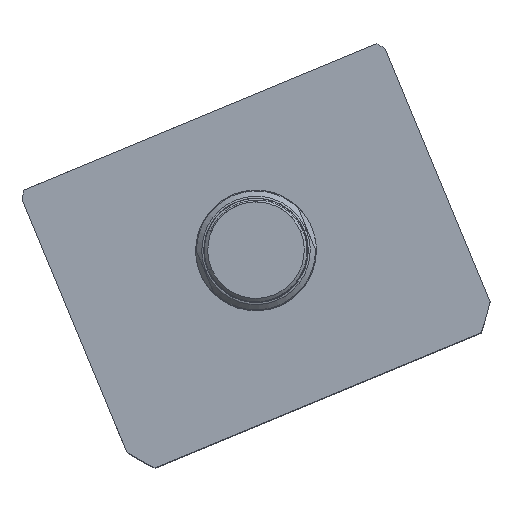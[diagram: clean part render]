
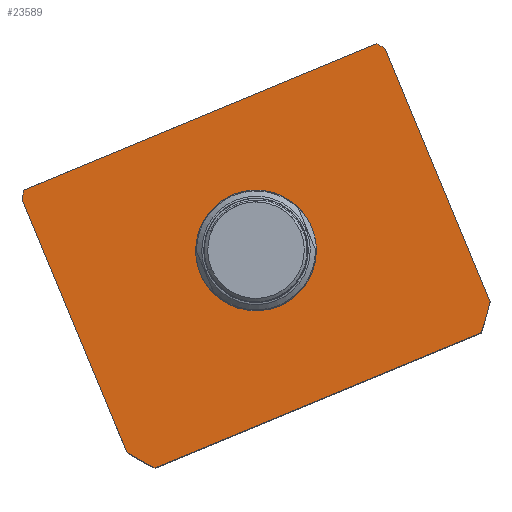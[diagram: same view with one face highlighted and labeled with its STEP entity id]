
A CAD part, top view. The second image highlights one B-rep face of the part: STEP entity #23589.
In plain terms, the highlighted planar face has unit normal (0, 0, 1) as drawn and (0, 0, -1) by its records, which use the part's own axes.
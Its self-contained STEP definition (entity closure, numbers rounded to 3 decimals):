
#1300 = CARTESIAN_POINT ( 'NONE',  ( -17.5, -59.497, 0. ) ) ;
#1351 = ORIENTED_EDGE ( 'NONE', *, *, #22520, .F. ) ;
#1397 = DIRECTION ( 'NONE',  ( 0., 0., 1. ) ) ;
#1482 = PLANE ( 'NONE',  #10368 ) ;
#1501 = VERTEX_POINT ( 'NONE', #2992 ) ;
#2496 = FACE_OUTER_BOUND ( 'NONE', #15459, .T. ) ;
#2590 = CARTESIAN_POINT ( 'NONE',  ( 0., -59.497, 0. ) ) ;
#2625 = ORIENTED_EDGE ( 'NONE', *, *, #4183, .F. ) ;
#2790 = CARTESIAN_POINT ( 'NONE',  ( 57., -19.732, 0. ) ) ;
#2808 = CARTESIAN_POINT ( 'NONE',  ( 0., -59.497, 0. ) ) ;
#2992 = CARTESIAN_POINT ( 'NONE',  ( 51.198, -106.497, 0. ) ) ;
#3320 = EDGE_CURVE ( 'NONE', #8840, #21712, #5648, .T. ) ;
#3623 = VECTOR ( 'NONE', #25937, 1000. ) ;
#3627 = DIRECTION ( 'NONE',  ( 1., 0., 0. ) ) ;
#3915 = CIRCLE ( 'NONE', #24934, 69.5 ) ;
#4028 = VERTEX_POINT ( 'NONE', #1300 ) ;
#4060 = CARTESIAN_POINT ( 'NONE',  ( -57., -17.497, 0. ) ) ;
#4183 = EDGE_CURVE ( 'NONE', #5746, #1501, #5959, .T. ) ;
#4720 = DIRECTION ( 'NONE',  ( 1., 0., 0. ) ) ;
#4923 = DIRECTION ( 'NONE',  ( 1., 0., 0. ) ) ;
#5002 = ORIENTED_EDGE ( 'NONE', *, *, #24628, .F. ) ;
#5044 = CIRCLE ( 'NONE', #25755, 69.5 ) ;
#5140 = ORIENTED_EDGE ( 'NONE', *, *, #12752, .F. ) ;
#5648 = CIRCLE ( 'NONE', #16804, 69.5 ) ;
#5746 = VERTEX_POINT ( 'NONE', #12227 ) ;
#5802 = LINE ( 'NONE', #26848, #11422 ) ;
#5911 = CARTESIAN_POINT ( 'NONE',  ( 0., -59.497, 0. ) ) ;
#5959 = LINE ( 'NONE', #9143, #22876 ) ;
#6383 = ORIENTED_EDGE ( 'NONE', *, *, #27370, .T. ) ;
#6732 = VECTOR ( 'NONE', #23137, 1000. ) ;
#7981 = DIRECTION ( 'NONE',  ( 0., 0., 1. ) ) ;
#8036 = DIRECTION ( 'NONE',  ( 1., 0., 0. ) ) ;
#8345 = EDGE_CURVE ( 'NONE', #4028, #13321, #15359, .T. ) ;
#8550 = CARTESIAN_POINT ( 'NONE',  ( -57., -19.732, 0. ) ) ;
#8840 = VERTEX_POINT ( 'NONE', #2790 ) ;
#9143 = CARTESIAN_POINT ( 'NONE',  ( -57., -106.497, 0. ) ) ;
#9149 = CIRCLE ( 'NONE', #20907, 17.5 ) ;
#9337 = EDGE_CURVE ( 'NONE', #21653, #21286, #12352, .T. ) ;
#9462 = FACE_BOUND ( 'NONE', #16323, .T. ) ;
#9891 = DIRECTION ( 'NONE',  ( 0., 0., 1. ) ) ;
#10368 = AXIS2_PLACEMENT_3D ( 'NONE', #12023, #9891, #3627 ) ;
#11422 = VECTOR ( 'NONE', #11981, 1000. ) ;
#11981 = DIRECTION ( 'NONE',  ( 0., 1., 0. ) ) ;
#11993 = DIRECTION ( 'NONE',  ( 0., 0., 1. ) ) ;
#12023 = CARTESIAN_POINT ( 'NONE',  ( 0., 0., 0. ) ) ;
#12227 = CARTESIAN_POINT ( 'NONE',  ( -51.198, -106.497, 0. ) ) ;
#12352 = LINE ( 'NONE', #4060, #6732 ) ;
#12752 = EDGE_CURVE ( 'NONE', #21712, #27451, #20531, .T. ) ;
#13030 = AXIS2_PLACEMENT_3D ( 'NONE', #20702, #7981, #22819 ) ;
#13321 = VERTEX_POINT ( 'NONE', #20451 ) ;
#14072 = CARTESIAN_POINT ( 'NONE',  ( 0., -59.497, 0. ) ) ;
#14551 = ORIENTED_EDGE ( 'NONE', *, *, #21359, .F. ) ;
#15001 = EDGE_CURVE ( 'NONE', #1501, #18616, #3915, .T. ) ;
#15021 = ORIENTED_EDGE ( 'NONE', *, *, #3320, .F. ) ;
#15359 = CIRCLE ( 'NONE', #13030, 17.5 ) ;
#15459 = EDGE_LOOP ( 'NONE', ( #15021, #5002, #25609, #2625, #1351, #25161, #14551, #5140 ) ) ;
#16202 = DIRECTION ( 'NONE',  ( 1., 0., 0. ) ) ;
#16323 = EDGE_LOOP ( 'NONE', ( #6383, #17489 ) ) ;
#16804 = AXIS2_PLACEMENT_3D ( 'NONE', #24715, #11993, #26858 ) ;
#17348 = CARTESIAN_POINT ( 'NONE',  ( 55.374, -17.497, 0. ) ) ;
#17385 = DIRECTION ( 'NONE',  ( 0., 0., 1. ) ) ;
#17489 = ORIENTED_EDGE ( 'NONE', *, *, #8345, .T. ) ;
#17601 = DIRECTION ( 'NONE',  ( 0., 0., 1. ) ) ;
#18616 = VERTEX_POINT ( 'NONE', #22964 ) ;
#19820 = CARTESIAN_POINT ( 'NONE',  ( -55.374, -17.497, 0. ) ) ;
#20451 = CARTESIAN_POINT ( 'NONE',  ( 17.5, -59.497, 0. ) ) ;
#20531 = LINE ( 'NONE', #21570, #3623 ) ;
#20702 = CARTESIAN_POINT ( 'NONE',  ( 0., -59.497, 0. ) ) ;
#20752 = DIRECTION ( 'NONE',  ( 0., 0., 1. ) ) ;
#20907 = AXIS2_PLACEMENT_3D ( 'NONE', #2590, #17385, #4720 ) ;
#21088 = CIRCLE ( 'NONE', #22741, 69.5 ) ;
#21286 = VERTEX_POINT ( 'NONE', #26963 ) ;
#21359 = EDGE_CURVE ( 'NONE', #27451, #21653, #5044, .T. ) ;
#21570 = CARTESIAN_POINT ( 'NONE',  ( -57., -17.497, 0. ) ) ;
#21653 = VERTEX_POINT ( 'NONE', #8550 ) ;
#21712 = VERTEX_POINT ( 'NONE', #17348 ) ;
#21878 = DIRECTION ( 'NONE',  ( 1., 0., 0. ) ) ;
#22520 = EDGE_CURVE ( 'NONE', #21286, #5746, #21088, .T. ) ;
#22741 = AXIS2_PLACEMENT_3D ( 'NONE', #2808, #17601, #4923 ) ;
#22819 = DIRECTION ( 'NONE',  ( 1., 0., 0. ) ) ;
#22876 = VECTOR ( 'NONE', #21878, 1000. ) ;
#22964 = CARTESIAN_POINT ( 'NONE',  ( 57., -99.262, 0. ) ) ;
#23137 = DIRECTION ( 'NONE',  ( 0., -1., 0. ) ) ;
#23589 = ADVANCED_FACE ( 'NONE', ( #9462, #2496 ), #1482, .F. ) ;
#24628 = EDGE_CURVE ( 'NONE', #18616, #8840, #5802, .T. ) ;
#24715 = CARTESIAN_POINT ( 'NONE',  ( 0., -59.497, 0. ) ) ;
#24934 = AXIS2_PLACEMENT_3D ( 'NONE', #14072, #1397, #16202 ) ;
#25161 = ORIENTED_EDGE ( 'NONE', *, *, #9337, .F. ) ;
#25609 = ORIENTED_EDGE ( 'NONE', *, *, #15001, .F. ) ;
#25755 = AXIS2_PLACEMENT_3D ( 'NONE', #5911, #20752, #8036 ) ;
#25937 = DIRECTION ( 'NONE',  ( -1., 0., 0. ) ) ;
#26848 = CARTESIAN_POINT ( 'NONE',  ( 57., -17.497, 0. ) ) ;
#26858 = DIRECTION ( 'NONE',  ( 1., 0., 0. ) ) ;
#26963 = CARTESIAN_POINT ( 'NONE',  ( -57., -99.262, 0. ) ) ;
#27370 = EDGE_CURVE ( 'NONE', #13321, #4028, #9149, .T. ) ;
#27451 = VERTEX_POINT ( 'NONE', #19820 ) ;
